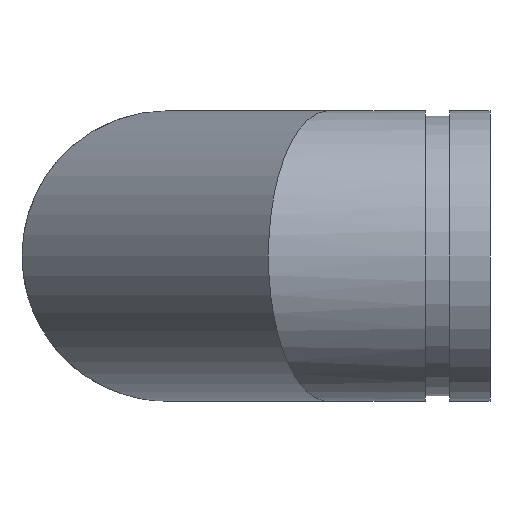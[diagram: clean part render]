
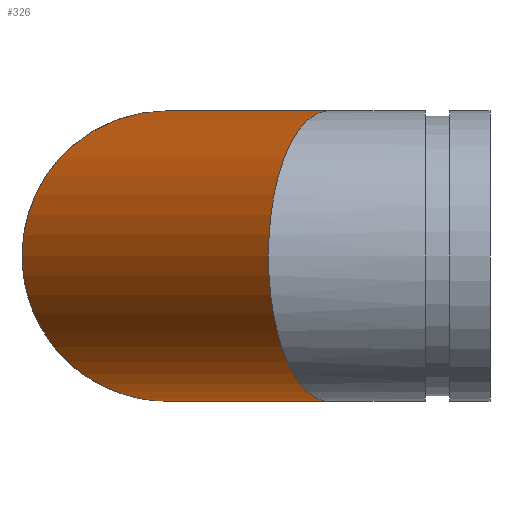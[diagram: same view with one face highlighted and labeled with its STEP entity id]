
A CAD part, left-side view. The second image highlights one B-rep face of the part: STEP entity #326.
In plain terms, the highlighted cylindrical face has radius 57.15 mm (diameter 114.3 mm), a full revolution.
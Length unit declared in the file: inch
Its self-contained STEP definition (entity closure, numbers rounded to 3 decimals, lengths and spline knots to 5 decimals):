
#51=ELLIPSE('',#383,2.43538,2.25);
#52=ELLIPSE('',#384,2.43538,2.25);
#53=ELLIPSE('',#385,2.43538,2.25);
#54=ELLIPSE('',#388,2.43538,2.25);
#55=ELLIPSE('',#389,2.43538,2.25);
#56=ELLIPSE('',#390,2.43538,2.25);
#82=FACE_OUTER_BOUND('',#103,.T.);
#103=EDGE_LOOP('',(#269,#270,#271,#272,#273,#274,#275,#276));
#115=LINE('',#606,#125);
#125=VECTOR('',#494,2.25);
#165=VERTEX_POINT('',#596);
#166=VERTEX_POINT('',#598);
#167=VERTEX_POINT('',#600);
#168=VERTEX_POINT('',#605);
#169=VERTEX_POINT('',#607);
#170=VERTEX_POINT('',#609);
#201=EDGE_CURVE('',#165,#166,#51,.T.);
#202=EDGE_CURVE('',#167,#166,#52,.T.);
#203=EDGE_CURVE('',#167,#165,#53,.T.);
#204=EDGE_CURVE('',#165,#168,#115,.T.);
#205=EDGE_CURVE('',#168,#169,#54,.T.);
#206=EDGE_CURVE('',#170,#169,#55,.T.);
#207=EDGE_CURVE('',#170,#168,#56,.T.);
#269=ORIENTED_EDGE('',*,*,#203,.F.);
#270=ORIENTED_EDGE('',*,*,#202,.T.);
#271=ORIENTED_EDGE('',*,*,#201,.F.);
#272=ORIENTED_EDGE('',*,*,#204,.T.);
#273=ORIENTED_EDGE('',*,*,#205,.T.);
#274=ORIENTED_EDGE('',*,*,#206,.F.);
#275=ORIENTED_EDGE('',*,*,#207,.T.);
#276=ORIENTED_EDGE('',*,*,#204,.F.);
#293=CYLINDRICAL_SURFACE('',#387,2.25);
#326=ADVANCED_FACE('',(#82),#293,.T.);
#383=AXIS2_PLACEMENT_3D('',#599,#484,#485);
#384=AXIS2_PLACEMENT_3D('',#601,#486,#487);
#385=AXIS2_PLACEMENT_3D('',#602,#488,#489);
#387=AXIS2_PLACEMENT_3D('',#604,#492,#493);
#388=AXIS2_PLACEMENT_3D('',#608,#495,#496);
#389=AXIS2_PLACEMENT_3D('',#610,#497,#498);
#390=AXIS2_PLACEMENT_3D('',#611,#499,#500);
#484=DIRECTION('center_axis',(-0.383,-0.924,0.));
#485=DIRECTION('ref_axis',(0.924,-0.383,0.));
#486=DIRECTION('center_axis',(0.383,0.924,0.));
#487=DIRECTION('ref_axis',(0.924,-0.383,0.));
#488=DIRECTION('center_axis',(-0.383,-0.924,0.));
#489=DIRECTION('ref_axis',(0.924,-0.383,0.));
#492=DIRECTION('center_axis',(-0.707,-0.707,0.));
#493=DIRECTION('ref_axis',(0.707,-0.707,0.));
#494=DIRECTION('',(0.707,0.707,0.));
#495=DIRECTION('center_axis',(-0.924,-0.383,0.));
#496=DIRECTION('ref_axis',(0.383,-0.924,0.));
#497=DIRECTION('center_axis',(0.924,0.383,0.));
#498=DIRECTION('ref_axis',(0.383,-0.924,0.));
#499=DIRECTION('center_axis',(-0.924,-0.383,0.));
#500=DIRECTION('ref_axis',(0.383,-0.924,0.));
#596=CARTESIAN_POINT('',(-2.25,-1.56802,0.));
#598=CARTESIAN_POINT('',(0.,-2.5,-2.25));
#599=CARTESIAN_POINT('Origin',(0.,-2.5,
0.));
#600=CARTESIAN_POINT('',(0.,-2.5,2.25));
#601=CARTESIAN_POINT('Origin',(0.,-2.5,0.));
#602=CARTESIAN_POINT('Origin',(0.,-2.5,
0.));
#604=CARTESIAN_POINT('Origin',(2.5,0.,0.));
#605=CARTESIAN_POINT('',(1.56802,2.25,0.));
#606=CARTESIAN_POINT('',(0.90901,1.59099,0.));
#607=CARTESIAN_POINT('',(2.5,0.,-2.25));
#608=CARTESIAN_POINT('Origin',(2.5,0.,0.));
#609=CARTESIAN_POINT('',(2.5,0.,2.25));
#610=CARTESIAN_POINT('Origin',(2.5,0.,0.));
#611=CARTESIAN_POINT('Origin',(2.5,0.,0.));
